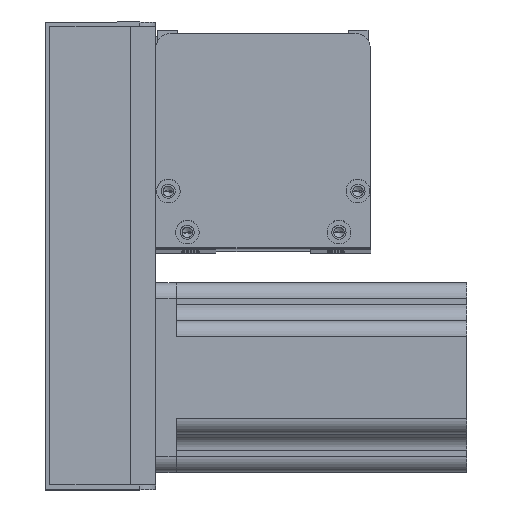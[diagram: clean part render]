
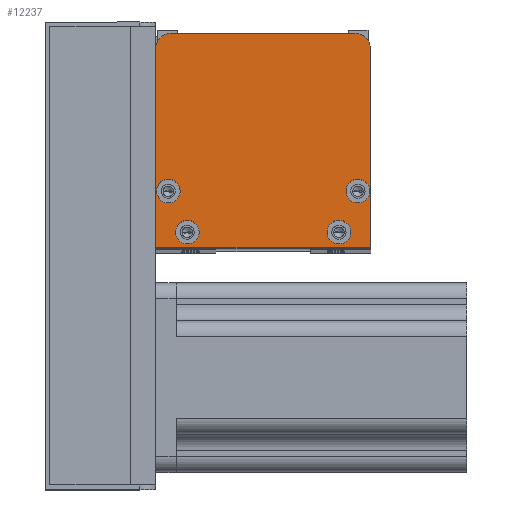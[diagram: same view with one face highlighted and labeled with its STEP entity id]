
A CAD part, top view. The second image highlights one B-rep face of the part: STEP entity #12237.
In plain terms, the highlighted planar face has unit normal (0, 0, 1) as drawn and (0, 0, -1) by its records, which use the part's own axes.
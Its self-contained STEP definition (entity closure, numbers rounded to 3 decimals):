
#108 = CARTESIAN_POINT ( 'NONE',  ( 10., 5., 0. ) ) ;
#196 = LINE ( 'NONE', #827, #24496 ) ;
#227 = DIRECTION ( 'NONE',  ( 1., 0., 0. ) ) ;
#300 = DIRECTION ( 'NONE',  ( 0., 0., -1. ) ) ;
#401 = EDGE_CURVE ( 'NONE', #22646, #2869, #14931, .T. ) ;
#803 = DIRECTION ( 'NONE',  ( -1., 0., 0. ) ) ;
#822 = ORIENTED_EDGE ( 'NONE', *, *, #15097, .F. ) ;
#827 = CARTESIAN_POINT ( 'NONE',  ( 68., 0., 0. ) ) ;
#1188 = CIRCLE ( 'NONE', #13071, 3.75 ) ;
#1454 = CARTESIAN_POINT ( 'NONE',  ( 63., 68., 0. ) ) ;
#1862 = CARTESIAN_POINT ( 'NONE',  ( 13.75, 5., 0. ) ) ;
#1908 = CIRCLE ( 'NONE', #11794, 3.75 ) ;
#1942 = CARTESIAN_POINT ( 'NONE',  ( 63., 63., 0. ) ) ;
#2174 = DIRECTION ( 'NONE',  ( 0., 0., -1. ) ) ;
#2388 = DIRECTION ( 'NONE',  ( -1., 0., 0. ) ) ;
#2600 = EDGE_CURVE ( 'NONE', #13323, #13539, #5437, .T. ) ;
#2795 = AXIS2_PLACEMENT_3D ( 'NONE', #8446, #4207, #25872 ) ;
#2869 = VERTEX_POINT ( 'NONE', #26097 ) ;
#2898 = CARTESIAN_POINT ( 'NONE',  ( 0.25, 18., 0. ) ) ;
#2947 = VERTEX_POINT ( 'NONE', #2898 ) ;
#3594 = CARTESIAN_POINT ( 'NONE',  ( 10., 5., 0. ) ) ;
#3906 = EDGE_CURVE ( 'NONE', #15166, #21123, #23577, .T. ) ;
#3914 = CIRCLE ( 'NONE', #26985, 3.75 ) ;
#4207 = DIRECTION ( 'NONE',  ( 0., 0., 1. ) ) ;
#4363 = DIRECTION ( 'NONE',  ( 1., 0., 0. ) ) ;
#4402 = ORIENTED_EDGE ( 'NONE', *, *, #11589, .F. ) ;
#4540 = AXIS2_PLACEMENT_3D ( 'NONE', #3594, #27454, #10320 ) ;
#4591 = CIRCLE ( 'NONE', #22299, 3.75 ) ;
#5016 = VERTEX_POINT ( 'NONE', #11661 ) ;
#5151 = VERTEX_POINT ( 'NONE', #16837 ) ;
#5170 = AXIS2_PLACEMENT_3D ( 'NONE', #7877, #25125, #18699 ) ;
#5288 = EDGE_LOOP ( 'NONE', ( #9274, #12834 ) ) ;
#5437 = CIRCLE ( 'NONE', #4540, 3.75 ) ;
#5771 = EDGE_LOOP ( 'NONE', ( #822, #12399 ) ) ;
#6038 = ORIENTED_EDGE ( 'NONE', *, *, #24076, .F. ) ;
#6072 = DIRECTION ( 'NONE',  ( -1., 0., 0. ) ) ;
#6102 = CIRCLE ( 'NONE', #25486, 3.75 ) ;
#6115 = ORIENTED_EDGE ( 'NONE', *, *, #16951, .F. ) ;
#6129 = CARTESIAN_POINT ( 'NONE',  ( 58., 5., 0. ) ) ;
#6649 = PLANE ( 'NONE',  #2795 ) ;
#6952 = AXIS2_PLACEMENT_3D ( 'NONE', #17175, #2174, #21594 ) ;
#7202 = DIRECTION ( 'NONE',  ( -1., 0., 0. ) ) ;
#7236 = DIRECTION ( 'NONE',  ( 0., 0., -1. ) ) ;
#7321 = CARTESIAN_POINT ( 'NONE',  ( 68., 63., 0. ) ) ;
#7611 = FACE_OUTER_BOUND ( 'NONE', #27351, .T. ) ;
#7677 = AXIS2_PLACEMENT_3D ( 'NONE', #1942, #10816, #17393 ) ;
#7804 = CIRCLE ( 'NONE', #6952, 3.75 ) ;
#7877 = CARTESIAN_POINT ( 'NONE',  ( 64., 18., 0. ) ) ;
#8285 = FACE_BOUND ( 'NONE', #9407, .T. ) ;
#8317 = FACE_BOUND ( 'NONE', #15742, .T. ) ;
#8383 = DIRECTION ( 'NONE',  ( -1., 0., 0. ) ) ;
#8446 = CARTESIAN_POINT ( 'NONE',  ( 0., 0., 0. ) ) ;
#8772 = ORIENTED_EDGE ( 'NONE', *, *, #12152, .T. ) ;
#8848 = CIRCLE ( 'NONE', #5170, 3.75 ) ;
#9069 = ORIENTED_EDGE ( 'NONE', *, *, #27819, .F. ) ;
#9274 = ORIENTED_EDGE ( 'NONE', *, *, #27461, .F. ) ;
#9407 = EDGE_LOOP ( 'NONE', ( #6115, #15203 ) ) ;
#10320 = DIRECTION ( 'NONE',  ( -1., 0., 0. ) ) ;
#10507 = VERTEX_POINT ( 'NONE', #17505 ) ;
#10816 = DIRECTION ( 'NONE',  ( 0., 0., -1. ) ) ;
#11040 = VERTEX_POINT ( 'NONE', #21787 ) ;
#11333 = EDGE_CURVE ( 'NONE', #5151, #11040, #1908, .T. ) ;
#11589 = EDGE_CURVE ( 'NONE', #11717, #5016, #4591, .T. ) ;
#11661 = CARTESIAN_POINT ( 'NONE',  ( 54.25, 5., 0. ) ) ;
#11717 = VERTEX_POINT ( 'NONE', #18722 ) ;
#11794 = AXIS2_PLACEMENT_3D ( 'NONE', #21114, #23381, #8383 ) ;
#12152 = EDGE_CURVE ( 'NONE', #24502, #23211, #15333, .T. ) ;
#12237 = ADVANCED_FACE ( 'NONE', ( #8285, #22114, #23781, #8317, #7611 ), #6649, .F. ) ;
#12399 = ORIENTED_EDGE ( 'NONE', *, *, #12449, .F. ) ;
#12449 = EDGE_CURVE ( 'NONE', #10507, #2947, #1188, .T. ) ;
#12509 = AXIS2_PLACEMENT_3D ( 'NONE', #21744, #19757, #227 ) ;
#12597 = VECTOR ( 'NONE', #20848, 1000. ) ;
#12834 = ORIENTED_EDGE ( 'NONE', *, *, #2600, .F. ) ;
#12900 = LINE ( 'NONE', #16114, #12597 ) ;
#12902 = VECTOR ( 'NONE', #4363, 1000. ) ;
#12929 = ORIENTED_EDGE ( 'NONE', *, *, #23828, .F. ) ;
#13071 = AXIS2_PLACEMENT_3D ( 'NONE', #20388, #20115, #7202 ) ;
#13323 = VERTEX_POINT ( 'NONE', #1862 ) ;
#13539 = VERTEX_POINT ( 'NONE', #25799 ) ;
#14237 = ORIENTED_EDGE ( 'NONE', *, *, #3906, .T. ) ;
#14874 = DIRECTION ( 'NONE',  ( -1., 0., 0. ) ) ;
#14931 = LINE ( 'NONE', #27849, #12902 ) ;
#15097 = EDGE_CURVE ( 'NONE', #2947, #10507, #7804, .T. ) ;
#15166 = VERTEX_POINT ( 'NONE', #17085 ) ;
#15203 = ORIENTED_EDGE ( 'NONE', *, *, #11333, .F. ) ;
#15333 = CIRCLE ( 'NONE', #7677, 5. ) ;
#15479 = ORIENTED_EDGE ( 'NONE', *, *, #26065, .F. ) ;
#15742 = EDGE_LOOP ( 'NONE', ( #6038, #4402 ) ) ;
#16114 = CARTESIAN_POINT ( 'NONE',  ( 0., 0., 0. ) ) ;
#16184 = CARTESIAN_POINT ( 'NONE',  ( 0., 0., 0. ) ) ;
#16837 = CARTESIAN_POINT ( 'NONE',  ( 67.75, 18., 0. ) ) ;
#16883 = CARTESIAN_POINT ( 'NONE',  ( 5., 68., 0. ) ) ;
#16951 = EDGE_CURVE ( 'NONE', #11040, #5151, #8848, .T. ) ;
#17085 = CARTESIAN_POINT ( 'NONE',  ( 0., 63., 0. ) ) ;
#17175 = CARTESIAN_POINT ( 'NONE',  ( 4., 18., 0. ) ) ;
#17393 = DIRECTION ( 'NONE',  ( 1., 0., 0. ) ) ;
#17505 = CARTESIAN_POINT ( 'NONE',  ( 7.75, 18., 0. ) ) ;
#17873 = VECTOR ( 'NONE', #6072, 1000. ) ;
#18699 = DIRECTION ( 'NONE',  ( -1., 0., 0. ) ) ;
#18722 = CARTESIAN_POINT ( 'NONE',  ( 61.75, 5., 0. ) ) ;
#19757 = DIRECTION ( 'NONE',  ( 0., 0., -1. ) ) ;
#20115 = DIRECTION ( 'NONE',  ( 0., 0., -1. ) ) ;
#20230 = LINE ( 'NONE', #23141, #17873 ) ;
#20388 = CARTESIAN_POINT ( 'NONE',  ( 4., 18., 0. ) ) ;
#20848 = DIRECTION ( 'NONE',  ( 0., -1., 0. ) ) ;
#21114 = CARTESIAN_POINT ( 'NONE',  ( 64., 18., 0. ) ) ;
#21123 = VERTEX_POINT ( 'NONE', #16883 ) ;
#21594 = DIRECTION ( 'NONE',  ( -1., 0., 0. ) ) ;
#21744 = CARTESIAN_POINT ( 'NONE',  ( 5., 63., 0. ) ) ;
#21787 = CARTESIAN_POINT ( 'NONE',  ( 60.25, 18., 0. ) ) ;
#22114 = FACE_BOUND ( 'NONE', #5771, .T. ) ;
#22299 = AXIS2_PLACEMENT_3D ( 'NONE', #26831, #7236, #803 ) ;
#22646 = VERTEX_POINT ( 'NONE', #16184 ) ;
#23141 = CARTESIAN_POINT ( 'NONE',  ( 68., 68., 0. ) ) ;
#23211 = VERTEX_POINT ( 'NONE', #7321 ) ;
#23381 = DIRECTION ( 'NONE',  ( 0., 0., -1. ) ) ;
#23577 = CIRCLE ( 'NONE', #12509, 5. ) ;
#23766 = ORIENTED_EDGE ( 'NONE', *, *, #401, .F. ) ;
#23781 = FACE_BOUND ( 'NONE', #5288, .T. ) ;
#23828 = EDGE_CURVE ( 'NONE', #2869, #23211, #196, .T. ) ;
#24076 = EDGE_CURVE ( 'NONE', #5016, #11717, #3914, .T. ) ;
#24496 = VECTOR ( 'NONE', #24682, 1000. ) ;
#24502 = VERTEX_POINT ( 'NONE', #1454 ) ;
#24682 = DIRECTION ( 'NONE',  ( 0., 1., 0. ) ) ;
#25125 = DIRECTION ( 'NONE',  ( 0., 0., -1. ) ) ;
#25460 = DIRECTION ( 'NONE',  ( 0., 0., -1. ) ) ;
#25486 = AXIS2_PLACEMENT_3D ( 'NONE', #108, #300, #2388 ) ;
#25799 = CARTESIAN_POINT ( 'NONE',  ( 6.25, 5., 0. ) ) ;
#25872 = DIRECTION ( 'NONE',  ( 1., 0., 0. ) ) ;
#26065 = EDGE_CURVE ( 'NONE', #15166, #22646, #12900, .T. ) ;
#26097 = CARTESIAN_POINT ( 'NONE',  ( 68., 0., 0. ) ) ;
#26831 = CARTESIAN_POINT ( 'NONE',  ( 58., 5., 0. ) ) ;
#26985 = AXIS2_PLACEMENT_3D ( 'NONE', #6129, #25460, #14874 ) ;
#27351 = EDGE_LOOP ( 'NONE', ( #15479, #14237, #9069, #8772, #12929, #23766 ) ) ;
#27454 = DIRECTION ( 'NONE',  ( 0., 0., -1. ) ) ;
#27461 = EDGE_CURVE ( 'NONE', #13539, #13323, #6102, .T. ) ;
#27819 = EDGE_CURVE ( 'NONE', #24502, #21123, #20230, .T. ) ;
#27849 = CARTESIAN_POINT ( 'NONE',  ( 68., 0., 0. ) ) ;
